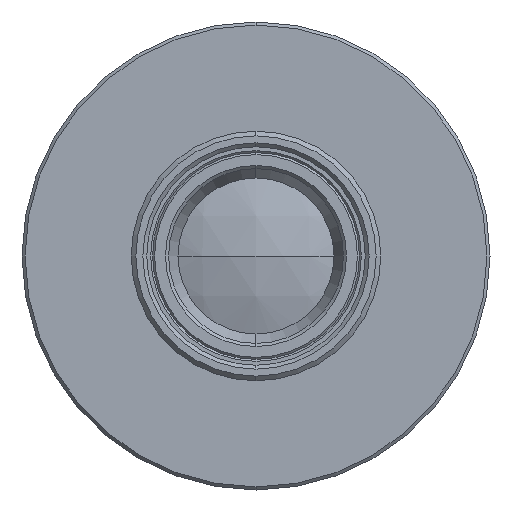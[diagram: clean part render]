
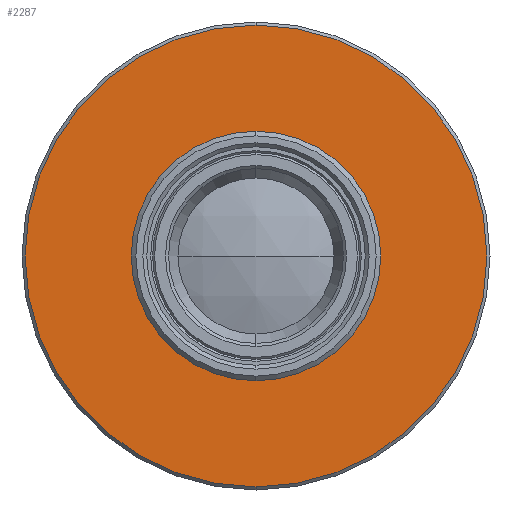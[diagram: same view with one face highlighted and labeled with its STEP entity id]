
A CAD part, left-side view. The second image highlights one B-rep face of the part: STEP entity #2287.
In plain terms, the highlighted planar face has unit normal (-1, 0, 0).
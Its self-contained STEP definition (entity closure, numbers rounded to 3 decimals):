
#62 = CIRCLE ( 'NONE', #508, 14.8 ) ;
#122 = AXIS2_PLACEMENT_3D ( 'NONE', #1970, #731, #2176 ) ;
#147 = EDGE_CURVE ( 'NONE', #398, #150, #1458, .T. ) ;
#149 = ORIENTED_EDGE ( 'NONE', *, *, #441, .T. ) ;
#150 = VERTEX_POINT ( 'NONE', #572 ) ;
#160 = DIRECTION ( 'NONE',  ( -1., 0., 0. ) ) ;
#347 = ORIENTED_EDGE ( 'NONE', *, *, #1145, .F. ) ;
#371 = CARTESIAN_POINT ( 'NONE',  ( 39.83, 0., 0. ) ) ;
#398 = VERTEX_POINT ( 'NONE', #1489 ) ;
#441 = EDGE_CURVE ( 'NONE', #2427, #952, #62, .T. ) ;
#474 = AXIS2_PLACEMENT_3D ( 'NONE', #968, #2416, #1175 ) ;
#497 = CIRCLE ( 'NONE', #474, 14.8 ) ;
#504 = CIRCLE ( 'NONE', #122, 8. ) ;
#508 = AXIS2_PLACEMENT_3D ( 'NONE', #1161, #542, #2169 ) ;
#519 = ORIENTED_EDGE ( 'NONE', *, *, #2005, .T. ) ;
#542 = DIRECTION ( 'NONE',  ( -1., 0., 0. ) ) ;
#572 = CARTESIAN_POINT ( 'NONE',  ( 39.83, 0., 8. ) ) ;
#713 = CARTESIAN_POINT ( 'NONE',  ( 39.83, 0., 14.8 ) ) ;
#731 = DIRECTION ( 'NONE',  ( -1., 0., 0. ) ) ;
#952 = VERTEX_POINT ( 'NONE', #713 ) ;
#968 = CARTESIAN_POINT ( 'NONE',  ( 39.83, 0., 0. ) ) ;
#1072 = PLANE ( 'NONE',  #2377 ) ;
#1145 = EDGE_CURVE ( 'NONE', #150, #398, #504, .T. ) ;
#1161 = CARTESIAN_POINT ( 'NONE',  ( 39.83, 0., 0. ) ) ;
#1175 = DIRECTION ( 'NONE',  ( 0., 0., 1. ) ) ;
#1458 = CIRCLE ( 'NONE', #1726, 8. ) ;
#1489 = CARTESIAN_POINT ( 'NONE',  ( 39.83, 0., -8. ) ) ;
#1608 = DIRECTION ( 'NONE',  ( 0., 0., 1. ) ) ;
#1726 = AXIS2_PLACEMENT_3D ( 'NONE', #371, #160, #1608 ) ;
#1893 = DIRECTION ( 'NONE',  ( -1., 0., 0. ) ) ;
#1910 = FACE_OUTER_BOUND ( 'NONE', #1993, .T. ) ;
#1943 = ORIENTED_EDGE ( 'NONE', *, *, #147, .F. ) ;
#1970 = CARTESIAN_POINT ( 'NONE',  ( 39.83, 0., 0. ) ) ;
#1971 = FACE_BOUND ( 'NONE', #2124, .T. ) ;
#1993 = EDGE_LOOP ( 'NONE', ( #149, #519 ) ) ;
#2005 = EDGE_CURVE ( 'NONE', #952, #2427, #497, .T. ) ;
#2100 = CARTESIAN_POINT ( 'NONE',  ( 39.83, 8., 0. ) ) ;
#2124 = EDGE_LOOP ( 'NONE', ( #347, #1943 ) ) ;
#2169 = DIRECTION ( 'NONE',  ( 0., 0., 1. ) ) ;
#2176 = DIRECTION ( 'NONE',  ( 0., 0., 1. ) ) ;
#2287 = ADVANCED_FACE ( 'NONE', ( #1910, #1971 ), #1072, .T. ) ;
#2377 = AXIS2_PLACEMENT_3D ( 'NONE', #2100, #1893, #2525 ) ;
#2416 = DIRECTION ( 'NONE',  ( -1., 0., 0. ) ) ;
#2427 = VERTEX_POINT ( 'NONE', #2447 ) ;
#2447 = CARTESIAN_POINT ( 'NONE',  ( 39.83, 0., -14.8 ) ) ;
#2525 = DIRECTION ( 'NONE',  ( 0., 0., 1. ) ) ;
